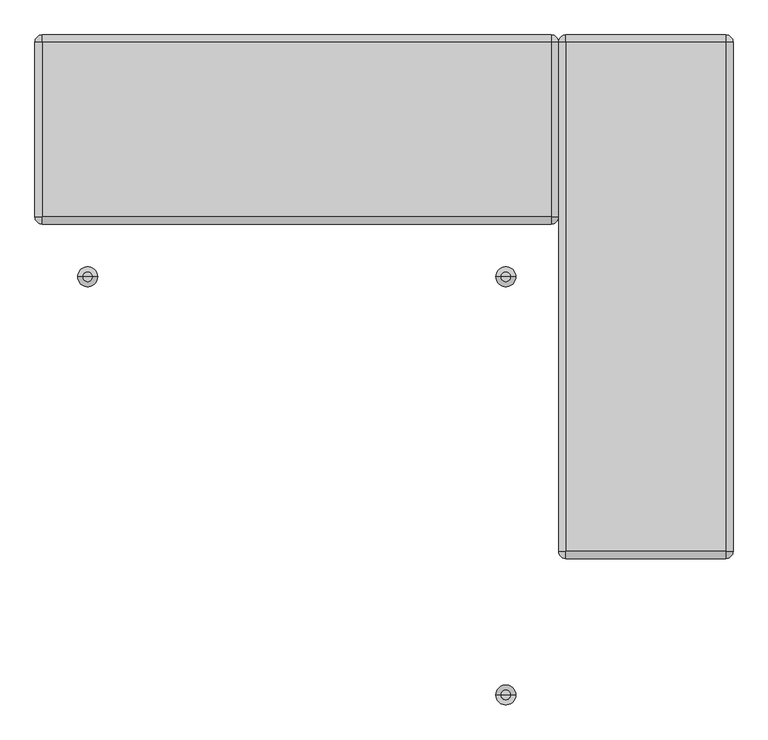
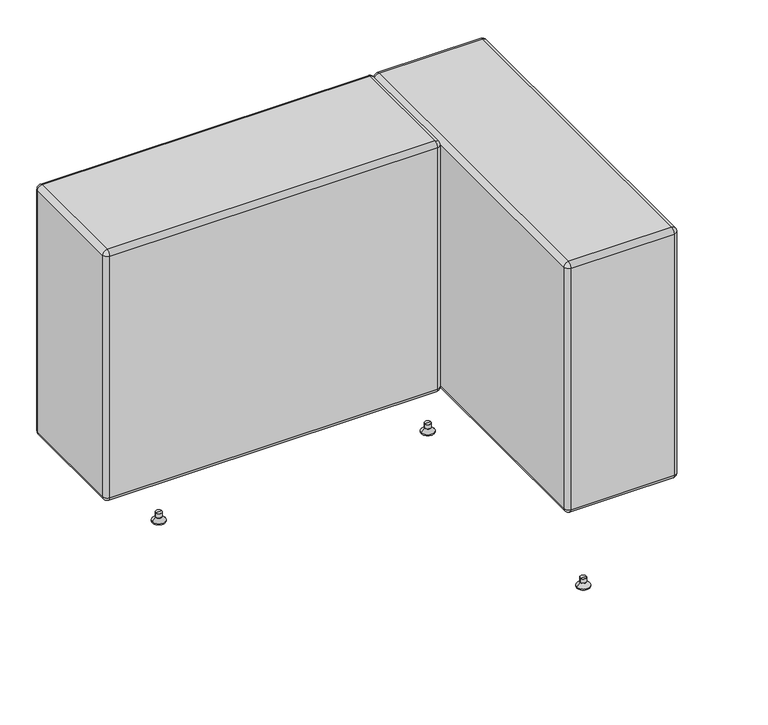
"""IFC4 building model written with IfcOpenShell, lengths in millimetres: furniture geometry, KFI Studios - Conversa : 36”x36” Seat - Left Corner."""

from ifc_helpers import new_model, si_unit, point, frame, origin, place, context, project, spatial, polyline, circle_curve, ellipse_curve, trimmed, source, transform, mapped, element, save
from ifc_brep_helpers import plane_surface, cylinder_surface, revolved_surface, advanced_brep


def furniture_95acf05c(model_context):
    return source(origin(), model_context, "Body", "AdvancedBrep", [
        advanced_brep(
        [(678.1895895, 695.325, 25.4), (669.925, 695.325, 25.4), (661.6604105, 695.325, 25.4), (678.1895895, 695.325, 14.2843611), (661.6604105, 695.325, 14.2843611), (676.5876354, 695.325, 14.2843611), (663.2623646, 695.325, 14.2843611), (676.5876354, 695.325, 12.7064551), (663.2623646, 695.325, 12.7064551), (678.1890671, 695.325, 12.7064551), (661.6609329, 695.325, 12.7064551), (687.3741215, 695.325, 3.1950529), (652.4758785, 695.325, 3.1950529), (687.3741215, 695.325, 0.0), (652.4758785, 695.325, 0.0), (669.925, 695.325, 0.0)],
        [
            (0, 1),
            (1, 2),
            (2, 0, circle_curve(frame((669.925, 695.325, 25.4), z_axis=(0.0, 0.0, 1.0), x_axis=(-1.0, 0.0, 0.0)), 8.2645895)),
            (0, 2, circle_curve(frame((669.925, 695.325, 25.4), z_axis=(0.0, 0.0, 1.0), x_axis=(-1.0, 0.0, 0.0)), 8.2645895)),
            (3, 0),
            (2, 4),
            (4, 3, circle_curve(frame((669.925, 695.325, 14.2843611), z_axis=(0.0, 0.0, 1.0), x_axis=(-1.0, 0.0, 0.0)), 8.2645895)),
            (3, 4, circle_curve(frame((669.925, 695.325, 14.2843611), z_axis=(0.0, 0.0, 1.0), x_axis=(-1.0, 0.0, 0.0)), 8.2645895)),
            (5, 3),
            (4, 6),
            (6, 5, circle_curve(frame((669.925, 695.325, 14.2843611), z_axis=(0.0, 0.0, 1.0), x_axis=(-1.0, 0.0, 0.0)), 6.6626354)),
            (5, 6, circle_curve(frame((669.925, 695.325, 14.2843611), z_axis=(0.0, 0.0, 1.0), x_axis=(-1.0, 0.0, 0.0)), 6.6626354)),
            (7, 5),
            (6, 8),
            (8, 7, circle_curve(frame((669.925, 695.325, 12.7064551), z_axis=(0.0, 0.0, 1.0), x_axis=(-1.0, 0.0, 0.0)), 6.6626354)),
            (7, 8, circle_curve(frame((669.925, 695.325, 12.7064551), z_axis=(0.0, 0.0, 1.0), x_axis=(-1.0, 0.0, 0.0)), 6.6626354)),
            (9, 7),
            (8, 10),
            (10, 9, circle_curve(frame((669.925, 695.325, 12.7064551), z_axis=(0.0, 0.0, 1.0), x_axis=(-1.0, 0.0, 0.0)), 8.2640671)),
            (9, 10, circle_curve(frame((669.925, 695.325, 12.7064551), z_axis=(0.0, 0.0, 1.0), x_axis=(-1.0, 0.0, 0.0)), 8.2640671)),
            (11, 9),
            (10, 12),
            (12, 11, circle_curve(frame((669.925, 695.325, 3.1950529), z_axis=(0.0, 0.0, 1.0), x_axis=(-1.0, 0.0, 0.0)), 17.4491215)),
            (11, 12, circle_curve(frame((669.925, 695.325, 3.1950529), z_axis=(0.0, 0.0, 1.0), x_axis=(-1.0, 0.0, 0.0)), 17.4491215)),
            (13, 11),
            (12, 14),
            (14, 13, circle_curve(frame((669.925, 695.325, 0.0), z_axis=(0.0, 0.0, 1.0), x_axis=(-1.0, 0.0, 0.0)), 17.4491215)),
            (13, 14, circle_curve(frame((669.925, 695.325, 0.0), z_axis=(0.0, 0.0, 1.0), x_axis=(-1.0, 0.0, 0.0)), 17.4491215)),
            (15, 13),
            (14, 15),
        ],
        [
            plane_surface(frame((669.925, 695.325, 25.4), z_axis=(0.0, 0.0, 1.0), x_axis=(-1.0, 0.0, 0.0))),
            cylinder_surface(frame((669.925, 695.325, 33.820929), z_axis=(0.0, 0.0, -1.0), x_axis=(-1.0, 0.0, 0.0)), 8.2645895),
            plane_surface(frame((669.925, 695.325, 14.2843611), z_axis=(0.0, 0.0, -1.0), x_axis=(-1.0, 0.0, 0.0))),
            cylinder_surface(frame((669.925, 695.325, 33.820929), z_axis=(0.0, 0.0, -1.0), x_axis=(-1.0, 0.0, 0.0)), 6.6626354),
            plane_surface(frame((669.925, 695.325, 12.7064551), z_axis=(0.0, 0.0, 1.0), x_axis=(-1.0, 0.0, 0.0))),
            revolved_surface(polyline([(661.6609329, 695.325, 12.7064551), (652.4758785, 695.325, 3.1950529)]), (669.925, 695.325, 33.820929), (0.0, 0.0, -1.0)),
            cylinder_surface(frame((669.925, 695.325, 33.820929), z_axis=(0.0, 0.0, -1.0), x_axis=(-1.0, 0.0, 0.0)), 17.4491215),
            plane_surface(frame((669.925, 695.325, 0.0), z_axis=(0.0, 0.0, -1.0), x_axis=(-1.0, 0.0, 0.0))),
        ],
        [
            (0, [[1, 2, 3]]),
            (0, [[-2, -1, 4]]),
            (1, [[5, -3, 6, 7]]),
            (1, [[-6, -4, -5, 8]]),
            (2, [[9, -7, 10, 11]]),
            (2, [[-10, -8, -9, 12]]),
            (3, [[13, -11, 14, 15]]),
            (3, [[-14, -12, -13, 16]]),
            (4, [[17, -15, 18, 19]]),
            (4, [[-18, -16, -17, 20]]),
            (5, [[21, -19, 22, 23]]),
            (5, [[-22, -20, -21, 24]]),
            (6, [[25, -23, 26, 27]]),
            (6, [[-26, -24, -25, 28]]),
            (7, [[29, -27, 30]]),
            (7, [[-30, -28, -29]]),
        ],
    ),
        advanced_brep(
        [(678.1895895, -34.925, 25.4), (661.6604105, -34.925, 25.4), (669.925, -34.925, 25.4), (678.1895895, -34.925, 14.2843611), (661.6604105, -34.925, 14.2843611), (676.5876354, -34.925, 14.2843611), (663.2623646, -34.925, 14.2843611), (676.5876354, -34.925, 12.7064551), (663.2623646, -34.925, 12.7064551), (678.1890671, -34.925, 12.7064551), (661.6609329, -34.925, 12.7064551), (687.3741215, -34.925, 3.1950529), (652.4758785, -34.925, 3.1950529), (687.3741215, -34.925, 0.0), (652.4758785, -34.925, 0.0), (669.925, -34.925, 0.0)],
        [
            (0, 1, circle_curve(frame((669.925, -34.925, 25.4), z_axis=(0.0, 0.0, 1.0), x_axis=(-1.0, 0.0, 0.0)), 8.2645895)),
            (1, 2),
            (2, 0),
            (1, 0, circle_curve(frame((669.925, -34.925, 25.4), z_axis=(0.0, 0.0, 1.0), x_axis=(-1.0, 0.0, 0.0)), 8.2645895)),
            (3, 4, circle_curve(frame((669.925, -34.925, 14.2843611), z_axis=(0.0, 0.0, 1.0), x_axis=(-1.0, 0.0, 0.0)), 8.2645895)),
            (4, 1),
            (0, 3),
            (4, 3, circle_curve(frame((669.925, -34.925, 14.2843611), z_axis=(0.0, 0.0, 1.0), x_axis=(-1.0, 0.0, 0.0)), 8.2645895)),
            (5, 6, circle_curve(frame((669.925, -34.925, 14.2843611), z_axis=(0.0, 0.0, 1.0), x_axis=(-1.0, 0.0, 0.0)), 6.6626354)),
            (6, 4),
            (3, 5),
            (6, 5, circle_curve(frame((669.925, -34.925, 14.2843611), z_axis=(0.0, 0.0, 1.0), x_axis=(-1.0, 0.0, 0.0)), 6.6626354)),
            (7, 8, circle_curve(frame((669.925, -34.925, 12.7064551), z_axis=(0.0, 0.0, 1.0), x_axis=(-1.0, 0.0, 0.0)), 6.6626354)),
            (8, 6),
            (5, 7),
            (8, 7, circle_curve(frame((669.925, -34.925, 12.7064551), z_axis=(0.0, 0.0, 1.0), x_axis=(-1.0, 0.0, 0.0)), 6.6626354)),
            (9, 10, circle_curve(frame((669.925, -34.925, 12.7064551), z_axis=(0.0, 0.0, 1.0), x_axis=(-1.0, 0.0, 0.0)), 8.2640671)),
            (10, 8),
            (7, 9),
            (10, 9, circle_curve(frame((669.925, -34.925, 12.7064551), z_axis=(0.0, 0.0, 1.0), x_axis=(-1.0, 0.0, 0.0)), 8.2640671)),
            (11, 12, circle_curve(frame((669.925, -34.925, 3.1950529), z_axis=(0.0, 0.0, 1.0), x_axis=(-1.0, 0.0, 0.0)), 17.4491215)),
            (12, 10),
            (9, 11),
            (12, 11, circle_curve(frame((669.925, -34.925, 3.1950529), z_axis=(0.0, 0.0, 1.0), x_axis=(-1.0, 0.0, 0.0)), 17.4491215)),
            (13, 14, circle_curve(frame((669.925, -34.925, 0.0), z_axis=(0.0, 0.0, 1.0), x_axis=(-1.0, 0.0, 0.0)), 17.4491215)),
            (14, 12),
            (11, 13),
            (14, 13, circle_curve(frame((669.925, -34.925, 0.0), z_axis=(0.0, 0.0, 1.0), x_axis=(-1.0, 0.0, 0.0)), 17.4491215)),
            (15, 14),
            (13, 15),
        ],
        [
            plane_surface(frame((669.925, -34.925, 25.4), z_axis=(0.0, 0.0, 1.0), x_axis=(-1.0, 0.0, 0.0))),
            cylinder_surface(frame((669.925, -34.925, 33.820929), z_axis=(0.0, 0.0, -1.0), x_axis=(-1.0, 0.0, 0.0)), 8.2645895),
            plane_surface(frame((669.925, -34.925, 14.2843611), z_axis=(0.0, 0.0, -1.0), x_axis=(-1.0, 0.0, 0.0))),
            cylinder_surface(frame((669.925, -34.925, 33.820929), z_axis=(0.0, 0.0, -1.0), x_axis=(-1.0, 0.0, 0.0)), 6.6626354),
            plane_surface(frame((669.925, -34.925, 12.7064551), z_axis=(0.0, 0.0, 1.0), x_axis=(-1.0, 0.0, 0.0))),
            revolved_surface(polyline([(661.6609329, -34.925, 12.7064551), (652.4758785, -34.925, 3.1950529)]), (669.925, -34.925, 33.820929), (0.0, 0.0, -1.0)),
            cylinder_surface(frame((669.925, -34.925, 33.820929), z_axis=(0.0, 0.0, -1.0), x_axis=(-1.0, 0.0, 0.0)), 17.4491215),
            plane_surface(frame((669.925, -34.925, 0.0), z_axis=(0.0, 0.0, -1.0), x_axis=(-1.0, 0.0, 0.0))),
        ],
        [
            (0, [[1, 2, 3]]),
            (0, [[4, -3, -2]]),
            (1, [[5, 6, -1, 7]]),
            (1, [[8, -7, -4, -6]]),
            (2, [[9, 10, -5, 11]]),
            (2, [[12, -11, -8, -10]]),
            (3, [[13, 14, -9, 15]]),
            (3, [[16, -15, -12, -14]]),
            (4, [[17, 18, -13, 19]]),
            (4, [[20, -19, -16, -18]]),
            (5, [[21, 22, -17, 23]]),
            (5, [[24, -23, -20, -22]]),
            (6, [[25, 26, -21, 27]]),
            (6, [[28, -27, -24, -26]]),
            (7, [[29, -25, 30]]),
            (7, [[-30, -28, -29]]),
        ],
    ),
        advanced_brep(
        [(457.2, 774.7, 730.25), (457.2, -114.3, 730.25), (469.9, -114.3, 742.95), (469.9, 774.7, 742.95), (457.2, 774.7, 38.1), (457.2, -114.3, 38.1), (469.9, 774.7, 25.4), (469.9, -114.3, 25.4), (469.9, -127.0, 730.25), (749.3, -127.0, 730.25), (749.3, -114.3, 742.95), (469.9, -127.0, 38.1), (749.3, -127.0, 38.1), (749.3, -114.3, 25.4), (749.3, 774.7, 742.95), (749.3, 774.7, 25.4), (749.3, 787.4, 730.25), (469.9, 787.4, 730.25), (749.3, 787.4, 38.1), (469.9, 787.4, 38.1), (762.0, -114.3, 730.25), (762.0, 774.7, 730.25), (762.0, -114.3, 38.1), (762.0, 774.7, 38.1)],
        [
            (0, 1),
            (1, 2, circle_curve(frame((469.9, -114.3, 730.25), z_axis=(0.0, 1.0, 0.0), x_axis=(-1.0, 0.0, 0.0)), 12.7)),
            (2, 3),
            (3, 0, circle_curve(frame((469.9, 774.7, 730.25), z_axis=(0.0, -1.0, 0.0), x_axis=(-1.0, 0.0, 0.0)), 12.7)),
            (0, 4),
            (4, 5),
            (5, 1),
            (4, 6, circle_curve(frame((469.9, 774.7, 38.1), z_axis=(0.0, -1.0, 0.0), x_axis=(-1.0, 0.0, 0.0)), 12.7)),
            (6, 7),
            (7, 5, circle_curve(frame((469.9, -114.3, 38.1), z_axis=(0.0, 1.0, 0.0), x_axis=(-1.0, 0.0, 0.0)), 12.7)),
            (8, 9),
            (9, 10, circle_curve(frame((749.3, -114.3, 730.25), z_axis=(-1.0, 0.0, 0.0), x_axis=(0.0, 1.0, 0.0)), 12.7)),
            (10, 2),
            (2, 8, circle_curve(frame((469.9, -114.3, 730.25), z_axis=(1.0, 0.0, 0.0), x_axis=(0.0, 1.0, 0.0)), 12.7)),
            (8, 11),
            (11, 12),
            (12, 9),
            (11, 7, circle_curve(frame((469.9, -114.3, 38.1), z_axis=(1.0, 0.0, 0.0), x_axis=(0.0, 1.0, 0.0)), 12.7)),
            (7, 13),
            (13, 12, circle_curve(frame((749.3, -114.3, 38.1), z_axis=(-1.0, 0.0, 0.0), x_axis=(0.0, 1.0, 0.0)), 12.7)),
            (10, 14),
            (14, 3),
            (6, 15),
            (15, 13),
            (16, 17),
            (17, 3, circle_curve(frame((469.9, 774.7, 730.25), z_axis=(1.0, 0.0, 0.0), x_axis=(0.0, 1.0, 0.0)), 12.7)),
            (14, 16, circle_curve(frame((749.3, 774.7, 730.25), z_axis=(-1.0, 0.0, 0.0), x_axis=(0.0, 1.0, 0.0)), 12.7)),
            (16, 18),
            (18, 19),
            (19, 17),
            (18, 15, circle_curve(frame((749.3, 774.7, 38.1), z_axis=(-1.0, 0.0, 0.0), x_axis=(0.0, 1.0, 0.0)), 12.7)),
            (6, 19, circle_curve(frame((469.9, 774.7, 38.1), z_axis=(1.0, 0.0, 0.0), x_axis=(0.0, 1.0, 0.0)), 12.7)),
            (20, 21),
            (21, 14, circle_curve(frame((749.3, 774.7, 730.25), z_axis=(0.0, -1.0, 0.0), x_axis=(-1.0, 0.0, 0.0)), 12.7)),
            (10, 20, circle_curve(frame((749.3, -114.3, 730.25), z_axis=(0.0, 1.0, 0.0), x_axis=(-1.0, 0.0, 0.0)), 12.7)),
            (20, 22),
            (22, 23),
            (23, 21),
            (22, 13, circle_curve(frame((749.3, -114.3, 38.1), z_axis=(0.0, 1.0, 0.0), x_axis=(-1.0, 0.0, 0.0)), 12.7)),
            (15, 23, circle_curve(frame((749.3, 774.7, 38.1), z_axis=(0.0, -1.0, 0.0), x_axis=(-1.0, 0.0, 0.0)), 12.7)),
            (19, 4, circle_curve(frame((469.9, 774.7, 38.1), z_axis=(0.0, 0.0, 1.0), x_axis=(-1.0, 0.0, 0.0)), 12.7)),
            (0, 17, circle_curve(frame((469.9, 774.7, 730.25), z_axis=(0.0, 0.0, -1.0), x_axis=(-1.0, 0.0, 0.0)), 12.7)),
            (8, 1, circle_curve(frame((469.9, -114.3, 730.25), z_axis=(0.0, 0.0, -1.0), x_axis=(-1.0, 0.0, 0.0)), 12.7)),
            (5, 11, circle_curve(frame((469.9, -114.3, 38.1), z_axis=(0.0, 0.0, 1.0), x_axis=(-1.0, 0.0, 0.0)), 12.7)),
            (12, 22, circle_curve(frame((749.3, -114.3, 38.1), z_axis=(0.0, 0.0, 1.0), x_axis=(1.0, 0.0, 0.0)), 12.7)),
            (20, 9, circle_curve(frame((749.3, -114.3, 730.25), z_axis=(0.0, 0.0, -1.0), x_axis=(1.0, 0.0, 0.0)), 12.7)),
            (16, 21, circle_curve(frame((749.3, 774.7, 730.25), z_axis=(0.0, 0.0, -1.0), x_axis=(1.0, 0.0, 0.0)), 12.7)),
            (23, 18, circle_curve(frame((749.3, 774.7, 38.1), z_axis=(0.0, 0.0, 1.0), x_axis=(1.0, 0.0, 0.0)), 12.7)),
        ],
        [
            cylinder_surface(frame((469.9, -114.3, 730.25), z_axis=(0.0, -1.0, 0.0), x_axis=(-1.0, 0.0, 0.0)), 12.7),
            plane_surface(frame((457.2, -114.3, 730.25), z_axis=(-1.0, 0.0, 0.0), x_axis=(0.0, 1.0, 0.0))),
            cylinder_surface(frame((469.9, -114.3, 38.1), z_axis=(0.0, -1.0, 0.0), x_axis=(-1.0, 0.0, 0.0)), 12.7),
            cylinder_surface(frame((469.9, -114.3, 730.25), z_axis=(-1.0, 0.0, 0.0), x_axis=(0.0, 1.0, 0.0)), 12.7),
            plane_surface(frame((469.9, -127.0, 38.1), z_axis=(0.0, -1.0, 0.0), x_axis=(1.0, 0.0, 0.0))),
            cylinder_surface(frame((469.9, -114.3, 38.1), z_axis=(-1.0, 0.0, 0.0), x_axis=(0.0, 1.0, 0.0)), 12.7),
            plane_surface(frame((469.9, 774.7, 742.95), z_axis=(0.0, 0.0, 1.0), x_axis=(-1.0, 0.0, 0.0))),
            plane_surface(frame((469.9, 774.7, 25.4), z_axis=(0.0, 0.0, -1.0), x_axis=(1.0, 0.0, 0.0))),
            cylinder_surface(frame((469.9, 774.7, 730.25), z_axis=(-1.0, 0.0, 0.0), x_axis=(0.0, 1.0, 0.0)), 12.7),
            plane_surface(frame((469.9, 787.4, 730.25), z_axis=(0.0, 1.0, 0.0), x_axis=(1.0, 0.0, 0.0))),
            cylinder_surface(frame((469.9, 774.7, 38.1), z_axis=(-1.0, 0.0, 0.0), x_axis=(0.0, 1.0, 0.0)), 12.7),
            cylinder_surface(frame((749.3, -114.3, 730.25), z_axis=(0.0, -1.0, 0.0), x_axis=(-1.0, 0.0, 0.0)), 12.7),
            plane_surface(frame((762.0, -114.3, 38.1), z_axis=(1.0, 0.0, 0.0), x_axis=(0.0, 1.0, 0.0))),
            cylinder_surface(frame((749.3, -114.3, 38.1), z_axis=(0.0, -1.0, 0.0), x_axis=(-1.0, 0.0, 0.0)), 12.7),
            cylinder_surface(frame((469.9, 774.7, 742.95), z_axis=(0.0, 0.0, 1.0), x_axis=(-1.0, 0.0, 0.0)), 12.7),
            revolved_surface(trimmed(ellipse_curve(frame((469.9, 774.7, 38.1), z_axis=(0.0, 1.0, 0.0), x_axis=(0.0, 0.0, 1.0)), 12.7, 12.7), [point((469.9, 774.7, 25.4))], [point((457.2, 774.7, 38.1))], True, "CARTESIAN"), (469.9, 774.7, 742.95), (0.0, 0.0, 1.0)),
            revolved_surface(trimmed(ellipse_curve(frame((469.9, 774.7, 730.25), z_axis=(0.0, 1.0, 0.0), x_axis=(0.0, 0.0, 1.0)), 12.7, 12.7), [point((457.2, 774.7, 730.25))], [point((469.9, 774.7, 742.95))], True, "CARTESIAN"), (469.9, 774.7, 742.95), (0.0, 0.0, 1.0)),
            cylinder_surface(frame((469.9, -114.3, 592.6689642), z_axis=(0.0, 0.0, -1.0), x_axis=(-1.0, 0.0, 0.0)), 12.7),
            revolved_surface(trimmed(ellipse_curve(frame((469.9, -114.3, 730.25), z_axis=(0.0, -1.0, 0.0), x_axis=(1.0, 0.0, 0.0)), 12.7, 12.7), [point((469.9, -114.3, 742.95))], [point((457.2, -114.3, 730.25))], True, "CARTESIAN"), (469.9, -114.3, 592.6689642), (0.0, 0.0, -1.0)),
            revolved_surface(trimmed(ellipse_curve(frame((469.9, -114.3, 38.1), z_axis=(0.0, -1.0, 0.0), x_axis=(1.0, 0.0, 0.0)), 12.7, 12.7), [point((457.2, -114.3, 38.1))], [point((469.9, -114.3, 25.4))], True, "CARTESIAN"), (469.9, -114.3, 592.6689642), (0.0, 0.0, -1.0)),
            cylinder_surface(frame((749.3, -114.3, 742.95), z_axis=(0.0, 0.0, 1.0), x_axis=(1.0, 0.0, 0.0)), 12.7),
            revolved_surface(trimmed(ellipse_curve(frame((749.3, -114.3, 38.1), z_axis=(0.0, -1.0, 0.0), x_axis=(1.0, 0.0, 0.0)), 12.7, 12.7), [point((749.3, -114.3, 25.4))], [point((762.0, -114.3, 38.1))], True, "CARTESIAN"), (749.3, -114.3, 742.95), (0.0, 0.0, 1.0)),
            revolved_surface(trimmed(ellipse_curve(frame((749.3, -114.3, 730.25), z_axis=(0.0, -1.0, 0.0), x_axis=(1.0, 0.0, 0.0)), 12.7, 12.7), [point((762.0, -114.3, 730.25))], [point((749.3, -114.3, 742.95))], True, "CARTESIAN"), (749.3, -114.3, 742.95), (0.0, 0.0, 1.0)),
            cylinder_surface(frame((749.3, 774.7, 592.6689642), z_axis=(0.0, 0.0, -1.0), x_axis=(1.0, 0.0, 0.0)), 12.7),
            revolved_surface(trimmed(ellipse_curve(frame((749.3, 774.7, 730.25), z_axis=(0.0, 1.0, 0.0), x_axis=(0.0, 0.0, 1.0)), 12.7, 12.7), [point((749.3, 774.7, 742.95))], [point((762.0, 774.7, 730.25))], True, "CARTESIAN"), (749.3, 774.7, 592.6689642), (0.0, 0.0, -1.0)),
            revolved_surface(trimmed(ellipse_curve(frame((749.3, 774.7, 38.1), z_axis=(0.0, 1.0, 0.0), x_axis=(0.0, 0.0, 1.0)), 12.7, 12.7), [point((762.0, 774.7, 38.1))], [point((749.3, 774.7, 25.4))], True, "CARTESIAN"), (749.3, 774.7, 592.6689642), (0.0, 0.0, -1.0)),
        ],
        [
            (0, [[1, 2, 3, 4]]),
            (1, [[-1, 5, 6, 7]]),
            (2, [[-6, 8, 9, 10]]),
            (3, [[11, 12, 13, 14]]),
            (4, [[-11, 15, 16, 17]]),
            (5, [[-16, 18, 19, 20]]),
            (6, [[-3, -13, 21, 22]]),
            (7, [[-9, 23, 24, -19]]),
            (8, [[25, 26, -22, 27]]),
            (9, [[-25, 28, 29, 30]]),
            (10, [[-29, 31, -23, 32]]),
            (11, [[33, 34, -21, 35]]),
            (12, [[-33, 36, 37, 38]]),
            (13, [[-37, 39, -24, 40]]),
            (14, [[41, -5, 42, -30]]),
            (15, [[-41, -32, -8]]),
            (16, [[-42, -4, -26]]),
            (17, [[43, -7, 44, -15]]),
            (18, [[-43, -14, -2]]),
            (19, [[-44, -10, -18]]),
            (20, [[45, -36, 46, -17]]),
            (21, [[-45, -20, -39]]),
            (22, [[-46, -35, -12]]),
            (23, [[47, -38, 48, -28]]),
            (24, [[-47, -27, -34]]),
            (25, [[-48, -40, -31]]),
        ],
    ),
        advanced_brep(
        [(373.3895895, 695.325, 25.4), (365.125, 695.325, 25.4), (356.8604105, 695.325, 25.4), (373.3895895, 695.325, 14.2843611), (356.8604105, 695.325, 14.2843611), (371.7876354, 695.325, 14.2843611), (358.4623646, 695.325, 14.2843611), (371.7876354, 695.325, 12.7064551), (358.4623646, 695.325, 12.7064551), (373.3890671, 695.325, 12.7064551), (356.8609329, 695.325, 12.7064551), (382.5741215, 695.325, 3.1950529), (347.6758785, 695.325, 3.1950529), (382.5741215, 695.325, 0.0), (347.6758785, 695.325, 0.0), (365.125, 695.325, 0.0)],
        [
            (0, 1),
            (1, 2),
            (2, 0, circle_curve(frame((365.125, 695.325, 25.4), z_axis=(0.0, 0.0, 1.0), x_axis=(-1.0, 0.0, 0.0)), 8.2645895)),
            (0, 2, circle_curve(frame((365.125, 695.325, 25.4), z_axis=(0.0, 0.0, 1.0), x_axis=(-1.0, 0.0, 0.0)), 8.2645895)),
            (3, 0),
            (2, 4),
            (4, 3, circle_curve(frame((365.125, 695.325, 14.2843611), z_axis=(0.0, 0.0, 1.0), x_axis=(-1.0, 0.0, 0.0)), 8.2645895)),
            (3, 4, circle_curve(frame((365.125, 695.325, 14.2843611), z_axis=(0.0, 0.0, 1.0), x_axis=(-1.0, 0.0, 0.0)), 8.2645895)),
            (5, 3),
            (4, 6),
            (6, 5, circle_curve(frame((365.125, 695.325, 14.2843611), z_axis=(0.0, 0.0, 1.0), x_axis=(-1.0, 0.0, 0.0)), 6.6626354)),
            (5, 6, circle_curve(frame((365.125, 695.325, 14.2843611), z_axis=(0.0, 0.0, 1.0), x_axis=(-1.0, 0.0, 0.0)), 6.6626354)),
            (7, 5),
            (6, 8),
            (8, 7, circle_curve(frame((365.125, 695.325, 12.7064551), z_axis=(0.0, 0.0, 1.0), x_axis=(-1.0, 0.0, 0.0)), 6.6626354)),
            (7, 8, circle_curve(frame((365.125, 695.325, 12.7064551), z_axis=(0.0, 0.0, 1.0), x_axis=(-1.0, 0.0, 0.0)), 6.6626354)),
            (9, 7),
            (8, 10),
            (10, 9, circle_curve(frame((365.125, 695.325, 12.7064551), z_axis=(0.0, 0.0, 1.0), x_axis=(-1.0, 0.0, 0.0)), 8.2640671)),
            (9, 10, circle_curve(frame((365.125, 695.325, 12.7064551), z_axis=(0.0, 0.0, 1.0), x_axis=(-1.0, 0.0, 0.0)), 8.2640671)),
            (11, 9),
            (10, 12),
            (12, 11, circle_curve(frame((365.125, 695.325, 3.1950529), z_axis=(0.0, 0.0, 1.0), x_axis=(-1.0, 0.0, 0.0)), 17.4491215)),
            (11, 12, circle_curve(frame((365.125, 695.325, 3.1950529), z_axis=(0.0, 0.0, 1.0), x_axis=(-1.0, 0.0, 0.0)), 17.4491215)),
            (13, 11),
            (12, 14),
            (14, 13, circle_curve(frame((365.125, 695.325, 0.0), z_axis=(0.0, 0.0, 1.0), x_axis=(-1.0, 0.0, 0.0)), 17.4491215)),
            (13, 14, circle_curve(frame((365.125, 695.325, 0.0), z_axis=(0.0, 0.0, 1.0), x_axis=(-1.0, 0.0, 0.0)), 17.4491215)),
            (15, 13),
            (14, 15),
        ],
        [
            plane_surface(frame((365.125, 695.325, 25.4), z_axis=(0.0, 0.0, 1.0), x_axis=(-1.0, 0.0, 0.0))),
            cylinder_surface(frame((365.125, 695.325, 33.820929), z_axis=(0.0, 0.0, -1.0), x_axis=(-1.0, 0.0, 0.0)), 8.2645895),
            plane_surface(frame((365.125, 695.325, 14.2843611), z_axis=(0.0, 0.0, -1.0), x_axis=(-1.0, 0.0, 0.0))),
            cylinder_surface(frame((365.125, 695.325, 33.820929), z_axis=(0.0, 0.0, -1.0), x_axis=(-1.0, 0.0, 0.0)), 6.6626354),
            plane_surface(frame((365.125, 695.325, 12.7064551), z_axis=(0.0, 0.0, 1.0), x_axis=(-1.0, 0.0, 0.0))),
            revolved_surface(polyline([(356.8609329, 695.325, 12.7064551), (347.6758785, 695.325, 3.1950529)]), (365.125, 695.325, 33.820929), (0.0, 0.0, -1.0)),
            cylinder_surface(frame((365.125, 695.325, 33.820929), z_axis=(0.0, 0.0, -1.0), x_axis=(-1.0, 0.0, 0.0)), 17.4491215),
            plane_surface(frame((365.125, 695.325, 0.0), z_axis=(0.0, 0.0, -1.0), x_axis=(-1.0, 0.0, 0.0))),
        ],
        [
            (0, [[1, 2, 3]]),
            (0, [[-2, -1, 4]]),
            (1, [[5, -3, 6, 7]]),
            (1, [[-6, -4, -5, 8]]),
            (2, [[9, -7, 10, 11]]),
            (2, [[-10, -8, -9, 12]]),
            (3, [[13, -11, 14, 15]]),
            (3, [[-14, -12, -13, 16]]),
            (4, [[17, -15, 18, 19]]),
            (4, [[-18, -16, -17, 20]]),
            (5, [[21, -19, 22, 23]]),
            (5, [[-22, -20, -21, 24]]),
            (6, [[25, -23, 26, 27]]),
            (6, [[-26, -24, -25, 28]]),
            (7, [[29, -27, 30]]),
            (7, [[-30, -28, -29]]),
        ],
    ),
        advanced_brep(
        [(-356.8604105, 695.325, 25.4), (-365.125, 695.325, 25.4), (-373.3895895, 695.325, 25.4), (-356.8604105, 695.325, 14.2843611), (-373.3895895, 695.325, 14.2843611), (-358.4623646, 695.325, 14.2843611), (-371.7876354, 695.325, 14.2843611), (-358.4623646, 695.325, 12.7064551), (-371.7876354, 695.325, 12.7064551), (-356.8609329, 695.325, 12.7064551), (-373.3890671, 695.325, 12.7064551), (-347.6758785, 695.325, 3.1950529), (-382.5741215, 695.325, 3.1950529), (-347.6758785, 695.325, 0.0), (-382.5741215, 695.325, 0.0), (-365.125, 695.325, 0.0)],
        [
            (0, 1),
            (1, 2),
            (2, 0, circle_curve(frame((-365.125, 695.325, 25.4), z_axis=(0.0, 0.0, 1.0), x_axis=(-1.0, 0.0, 0.0)), 8.2645895)),
            (0, 2, circle_curve(frame((-365.125, 695.325, 25.4), z_axis=(0.0, 0.0, 1.0), x_axis=(-1.0, 0.0, 0.0)), 8.2645895)),
            (3, 0),
            (2, 4),
            (4, 3, circle_curve(frame((-365.125, 695.325, 14.2843611), z_axis=(0.0, 0.0, 1.0), x_axis=(-1.0, 0.0, 0.0)), 8.2645895)),
            (3, 4, circle_curve(frame((-365.125, 695.325, 14.2843611), z_axis=(0.0, 0.0, 1.0), x_axis=(-1.0, 0.0, 0.0)), 8.2645895)),
            (5, 3),
            (4, 6),
            (6, 5, circle_curve(frame((-365.125, 695.325, 14.2843611), z_axis=(0.0, 0.0, 1.0), x_axis=(-1.0, 0.0, 0.0)), 6.6626354)),
            (5, 6, circle_curve(frame((-365.125, 695.325, 14.2843611), z_axis=(0.0, 0.0, 1.0), x_axis=(-1.0, 0.0, 0.0)), 6.6626354)),
            (7, 5),
            (6, 8),
            (8, 7, circle_curve(frame((-365.125, 695.325, 12.7064551), z_axis=(0.0, 0.0, 1.0), x_axis=(-1.0, 0.0, 0.0)), 6.6626354)),
            (7, 8, circle_curve(frame((-365.125, 695.325, 12.7064551), z_axis=(0.0, 0.0, 1.0), x_axis=(-1.0, 0.0, 0.0)), 6.6626354)),
            (9, 7),
            (8, 10),
            (10, 9, circle_curve(frame((-365.125, 695.325, 12.7064551), z_axis=(0.0, 0.0, 1.0), x_axis=(-1.0, 0.0, 0.0)), 8.2640671)),
            (9, 10, circle_curve(frame((-365.125, 695.325, 12.7064551), z_axis=(0.0, 0.0, 1.0), x_axis=(-1.0, 0.0, 0.0)), 8.2640671)),
            (11, 9),
            (10, 12),
            (12, 11, circle_curve(frame((-365.125, 695.325, 3.1950529), z_axis=(0.0, 0.0, 1.0), x_axis=(-1.0, 0.0, 0.0)), 17.4491215)),
            (11, 12, circle_curve(frame((-365.125, 695.325, 3.1950529), z_axis=(0.0, 0.0, 1.0), x_axis=(-1.0, 0.0, 0.0)), 17.4491215)),
            (13, 11),
            (12, 14),
            (14, 13, circle_curve(frame((-365.125, 695.325, 0.0), z_axis=(0.0, 0.0, 1.0), x_axis=(-1.0, 0.0, 0.0)), 17.4491215)),
            (13, 14, circle_curve(frame((-365.125, 695.325, 0.0), z_axis=(0.0, 0.0, 1.0), x_axis=(-1.0, 0.0, 0.0)), 17.4491215)),
            (15, 13),
            (14, 15),
        ],
        [
            plane_surface(frame((-365.125, 695.325, 25.4), z_axis=(0.0, 0.0, 1.0), x_axis=(-1.0, 0.0, 0.0))),
            cylinder_surface(frame((-365.125, 695.325, 33.820929), z_axis=(0.0, 0.0, -1.0), x_axis=(-1.0, 0.0, 0.0)), 8.2645895),
            plane_surface(frame((-365.125, 695.325, 14.2843611), z_axis=(0.0, 0.0, -1.0), x_axis=(-1.0, 0.0, 0.0))),
            cylinder_surface(frame((-365.125, 695.325, 33.820929), z_axis=(0.0, 0.0, -1.0), x_axis=(-1.0, 0.0, 0.0)), 6.6626354),
            plane_surface(frame((-365.125, 695.325, 12.7064551), z_axis=(0.0, 0.0, 1.0), x_axis=(-1.0, 0.0, 0.0))),
            revolved_surface(polyline([(-373.3890671, 695.325, 12.7064551), (-382.5741215, 695.325, 3.1950529)]), (-365.125, 695.325, 33.820929), (0.0, 0.0, -1.0)),
            cylinder_surface(frame((-365.125, 695.325, 33.820929), z_axis=(0.0, 0.0, -1.0), x_axis=(-1.0, 0.0, 0.0)), 17.4491215),
            plane_surface(frame((-365.125, 695.325, 0.0), z_axis=(0.0, 0.0, -1.0), x_axis=(-1.0, 0.0, 0.0))),
        ],
        [
            (0, [[1, 2, 3]]),
            (0, [[-2, -1, 4]]),
            (1, [[5, -3, 6, 7]]),
            (1, [[-6, -4, -5, 8]]),
            (2, [[9, -7, 10, 11]]),
            (2, [[-10, -8, -9, 12]]),
            (3, [[13, -11, 14, 15]]),
            (3, [[-14, -12, -13, 16]]),
            (4, [[17, -15, 18, 19]]),
            (4, [[-18, -16, -17, 20]]),
            (5, [[21, -19, 22, 23]]),
            (5, [[-22, -20, -21, 24]]),
            (6, [[25, -23, 26, 27]]),
            (6, [[-26, -24, -25, 28]]),
            (7, [[29, -27, 30]]),
            (7, [[-30, -28, -29]]),
        ],
    ),
        advanced_brep(
        [(-457.2, 774.7, 730.25), (-457.2, 469.9, 730.25), (-444.5, 469.9, 742.95), (-444.5, 774.7, 742.95), (-457.2, 774.7, 38.1), (-457.2, 469.9, 38.1), (-444.5, 774.7, 25.4), (-444.5, 469.9, 25.4), (-444.5, 457.2, 730.25), (444.5, 457.2, 730.25), (444.5, 469.9, 742.95), (-444.5, 457.2, 38.1), (444.5, 457.2, 38.1), (444.5, 469.9, 25.4), (444.5, 774.7, 742.95), (444.5, 774.7, 25.4), (444.5, 787.4, 730.25), (-444.5, 787.4, 730.25), (444.5, 787.4, 38.1), (-444.5, 787.4, 38.1), (457.2, 469.9, 730.25), (457.2, 774.7, 730.25), (457.2, 469.9, 38.1), (457.2, 774.7, 38.1)],
        [
            (0, 1),
            (1, 2, circle_curve(frame((-444.5, 469.9, 730.25), z_axis=(0.0, 1.0, 0.0), x_axis=(-1.0, 0.0, 0.0)), 12.7)),
            (2, 3),
            (3, 0, circle_curve(frame((-444.5, 774.7, 730.25), z_axis=(0.0, -1.0, 0.0), x_axis=(-1.0, 0.0, 0.0)), 12.7)),
            (0, 4),
            (4, 5),
            (5, 1),
            (4, 6, circle_curve(frame((-444.5, 774.7, 38.1), z_axis=(0.0, -1.0, 0.0), x_axis=(-1.0, 0.0, 0.0)), 12.7)),
            (6, 7),
            (7, 5, circle_curve(frame((-444.5, 469.9, 38.1), z_axis=(0.0, 1.0, 0.0), x_axis=(-1.0, 0.0, 0.0)), 12.7)),
            (8, 9),
            (9, 10, circle_curve(frame((444.5, 469.9, 730.25), z_axis=(-1.0, 0.0, 0.0), x_axis=(0.0, 1.0, 0.0)), 12.7)),
            (10, 2),
            (2, 8, circle_curve(frame((-444.5, 469.9, 730.25), z_axis=(1.0, 0.0, 0.0), x_axis=(0.0, 1.0, 0.0)), 12.7)),
            (8, 11),
            (11, 12),
            (12, 9),
            (11, 7, circle_curve(frame((-444.5, 469.9, 38.1), z_axis=(1.0, 0.0, 0.0), x_axis=(0.0, 1.0, 0.0)), 12.7)),
            (7, 13),
            (13, 12, circle_curve(frame((444.5, 469.9, 38.1), z_axis=(-1.0, 0.0, 0.0), x_axis=(0.0, 1.0, 0.0)), 12.7)),
            (10, 14),
            (14, 3),
            (6, 15),
            (15, 13),
            (16, 17),
            (17, 3, circle_curve(frame((-444.5, 774.7, 730.25), z_axis=(1.0, 0.0, 0.0), x_axis=(0.0, 1.0, 0.0)), 12.7)),
            (14, 16, circle_curve(frame((444.5, 774.7, 730.25), z_axis=(-1.0, 0.0, 0.0), x_axis=(0.0, 1.0, 0.0)), 12.7)),
            (16, 18),
            (18, 19),
            (19, 17),
            (18, 15, circle_curve(frame((444.5, 774.7, 38.1), z_axis=(-1.0, 0.0, 0.0), x_axis=(0.0, 1.0, 0.0)), 12.7)),
            (6, 19, circle_curve(frame((-444.5, 774.7, 38.1), z_axis=(1.0, 0.0, 0.0), x_axis=(0.0, 1.0, 0.0)), 12.7)),
            (20, 21),
            (21, 14, circle_curve(frame((444.5, 774.7, 730.25), z_axis=(0.0, -1.0, 0.0), x_axis=(-1.0, 0.0, 0.0)), 12.7)),
            (10, 20, circle_curve(frame((444.5, 469.9, 730.25), z_axis=(0.0, 1.0, 0.0), x_axis=(-1.0, 0.0, 0.0)), 12.7)),
            (20, 22),
            (22, 23),
            (23, 21),
            (22, 13, circle_curve(frame((444.5, 469.9, 38.1), z_axis=(0.0, 1.0, 0.0), x_axis=(-1.0, 0.0, 0.0)), 12.7)),
            (15, 23, circle_curve(frame((444.5, 774.7, 38.1), z_axis=(0.0, -1.0, 0.0), x_axis=(-1.0, 0.0, 0.0)), 12.7)),
            (19, 4, circle_curve(frame((-444.5, 774.7, 38.1), z_axis=(0.0, 0.0, 1.0), x_axis=(-1.0, 0.0, 0.0)), 12.7)),
            (0, 17, circle_curve(frame((-444.5, 774.7, 730.25), z_axis=(0.0, 0.0, -1.0), x_axis=(-1.0, 0.0, 0.0)), 12.7)),
            (8, 1, circle_curve(frame((-444.5, 469.9, 730.25), z_axis=(0.0, 0.0, -1.0), x_axis=(-1.0, 0.0, 0.0)), 12.7)),
            (5, 11, circle_curve(frame((-444.5, 469.9, 38.1), z_axis=(0.0, 0.0, 1.0), x_axis=(-1.0, 0.0, 0.0)), 12.7)),
            (12, 22, circle_curve(frame((444.5, 469.9, 38.1), z_axis=(0.0, 0.0, 1.0), x_axis=(1.0, 0.0, 0.0)), 12.7)),
            (20, 9, circle_curve(frame((444.5, 469.9, 730.25), z_axis=(0.0, 0.0, -1.0), x_axis=(1.0, 0.0, 0.0)), 12.7)),
            (16, 21, circle_curve(frame((444.5, 774.7, 730.25), z_axis=(0.0, 0.0, -1.0), x_axis=(1.0, 0.0, 0.0)), 12.7)),
            (23, 18, circle_curve(frame((444.5, 774.7, 38.1), z_axis=(0.0, 0.0, 1.0), x_axis=(1.0, 0.0, 0.0)), 12.7)),
        ],
        [
            cylinder_surface(frame((-444.5, 469.9, 730.25), z_axis=(0.0, -1.0, 0.0), x_axis=(-1.0, 0.0, 0.0)), 12.7),
            plane_surface(frame((-457.2, 469.9, 730.25), z_axis=(-1.0, 0.0, 0.0), x_axis=(0.0, 1.0, 0.0))),
            cylinder_surface(frame((-444.5, 469.9, 38.1), z_axis=(0.0, -1.0, 0.0), x_axis=(-1.0, 0.0, 0.0)), 12.7),
            cylinder_surface(frame((-444.5, 469.9, 730.25), z_axis=(-1.0, 0.0, 0.0), x_axis=(0.0, 1.0, 0.0)), 12.7),
            plane_surface(frame((-444.5, 457.2, 38.1), z_axis=(0.0, -1.0, 0.0), x_axis=(1.0, 0.0, 0.0))),
            cylinder_surface(frame((-444.5, 469.9, 38.1), z_axis=(-1.0, 0.0, 0.0), x_axis=(0.0, 1.0, 0.0)), 12.7),
            plane_surface(frame((-444.5, 774.7, 742.95), z_axis=(0.0, 0.0, 1.0), x_axis=(-1.0, 0.0, 0.0))),
            plane_surface(frame((-444.5, 774.7, 25.4), z_axis=(0.0, 0.0, -1.0), x_axis=(1.0, 0.0, 0.0))),
            cylinder_surface(frame((-444.5, 774.7, 730.25), z_axis=(-1.0, 0.0, 0.0), x_axis=(0.0, 1.0, 0.0)), 12.7),
            plane_surface(frame((-444.5, 787.4, 730.25), z_axis=(0.0, 1.0, 0.0), x_axis=(1.0, 0.0, 0.0))),
            cylinder_surface(frame((-444.5, 774.7, 38.1), z_axis=(-1.0, 0.0, 0.0), x_axis=(0.0, 1.0, 0.0)), 12.7),
            cylinder_surface(frame((444.5, 469.9, 730.25), z_axis=(0.0, -1.0, 0.0), x_axis=(-1.0, 0.0, 0.0)), 12.7),
            plane_surface(frame((457.2, 469.9, 38.1), z_axis=(1.0, 0.0, 0.0), x_axis=(0.0, 1.0, 0.0))),
            cylinder_surface(frame((444.5, 469.9, 38.1), z_axis=(0.0, -1.0, 0.0), x_axis=(-1.0, 0.0, 0.0)), 12.7),
            cylinder_surface(frame((-444.5, 774.7, 742.95), z_axis=(0.0, 0.0, 1.0), x_axis=(-1.0, 0.0, 0.0)), 12.7),
            revolved_surface(trimmed(ellipse_curve(frame((-444.5, 774.7, 38.1), z_axis=(0.0, 1.0, 0.0), x_axis=(0.0, 0.0, 1.0)), 12.7, 12.7), [point((-444.5, 774.7, 25.4))], [point((-457.2, 774.7, 38.1))], True, "CARTESIAN"), (-444.5, 774.7, 742.95), (0.0, 0.0, 1.0)),
            revolved_surface(trimmed(ellipse_curve(frame((-444.5, 774.7, 730.25), z_axis=(0.0, 1.0, 0.0), x_axis=(0.0, 0.0, 1.0)), 12.7, 12.7), [point((-457.2, 774.7, 730.25))], [point((-444.5, 774.7, 742.95))], True, "CARTESIAN"), (-444.5, 774.7, 742.95), (0.0, 0.0, 1.0)),
            cylinder_surface(frame((-444.5, 469.9, 592.6689642), z_axis=(0.0, 0.0, -1.0), x_axis=(-1.0, 0.0, 0.0)), 12.7),
            revolved_surface(trimmed(ellipse_curve(frame((-444.5, 469.9, 730.25), z_axis=(0.0, -1.0, 0.0), x_axis=(1.0, 0.0, 0.0)), 12.7, 12.7), [point((-444.5, 469.9, 742.95))], [point((-457.2, 469.9, 730.25))], True, "CARTESIAN"), (-444.5, 469.9, 592.6689642), (0.0, 0.0, -1.0)),
            revolved_surface(trimmed(ellipse_curve(frame((-444.5, 469.9, 38.1), z_axis=(0.0, -1.0, 0.0), x_axis=(1.0, 0.0, 0.0)), 12.7, 12.7), [point((-457.2, 469.9, 38.1))], [point((-444.5, 469.9, 25.4))], True, "CARTESIAN"), (-444.5, 469.9, 592.6689642), (0.0, 0.0, -1.0)),
            cylinder_surface(frame((444.5, 469.9, 742.95), z_axis=(0.0, 0.0, 1.0), x_axis=(1.0, 0.0, 0.0)), 12.7),
            revolved_surface(trimmed(ellipse_curve(frame((444.5, 469.9, 38.1), z_axis=(0.0, -1.0, 0.0), x_axis=(1.0, 0.0, 0.0)), 12.7, 12.7), [point((444.5, 469.9, 25.4))], [point((457.2, 469.9, 38.1))], True, "CARTESIAN"), (444.5, 469.9, 742.95), (0.0, 0.0, 1.0)),
            revolved_surface(trimmed(ellipse_curve(frame((444.5, 469.9, 730.25), z_axis=(0.0, -1.0, 0.0), x_axis=(1.0, 0.0, 0.0)), 12.7, 12.7), [point((457.2, 469.9, 730.25))], [point((444.5, 469.9, 742.95))], True, "CARTESIAN"), (444.5, 469.9, 742.95), (0.0, 0.0, 1.0)),
            cylinder_surface(frame((444.5, 774.7, 592.6689642), z_axis=(0.0, 0.0, -1.0), x_axis=(1.0, 0.0, 0.0)), 12.7),
            revolved_surface(trimmed(ellipse_curve(frame((444.5, 774.7, 730.25), z_axis=(0.0, 1.0, 0.0), x_axis=(0.0, 0.0, 1.0)), 12.7, 12.7), [point((444.5, 774.7, 742.95))], [point((457.2, 774.7, 730.25))], True, "CARTESIAN"), (444.5, 774.7, 592.6689642), (0.0, 0.0, -1.0)),
            revolved_surface(trimmed(ellipse_curve(frame((444.5, 774.7, 38.1), z_axis=(0.0, 1.0, 0.0), x_axis=(0.0, 0.0, 1.0)), 12.7, 12.7), [point((457.2, 774.7, 38.1))], [point((444.5, 774.7, 25.4))], True, "CARTESIAN"), (444.5, 774.7, 592.6689642), (0.0, 0.0, -1.0)),
        ],
        [
            (0, [[1, 2, 3, 4]]),
            (1, [[-1, 5, 6, 7]]),
            (2, [[-6, 8, 9, 10]]),
            (3, [[11, 12, 13, 14]]),
            (4, [[-11, 15, 16, 17]]),
            (5, [[-16, 18, 19, 20]]),
            (6, [[-3, -13, 21, 22]]),
            (7, [[-9, 23, 24, -19]]),
            (8, [[25, 26, -22, 27]]),
            (9, [[-25, 28, 29, 30]]),
            (10, [[-29, 31, -23, 32]]),
            (11, [[33, 34, -21, 35]]),
            (12, [[-33, 36, 37, 38]]),
            (13, [[-37, 39, -24, 40]]),
            (14, [[41, -5, 42, -30]]),
            (15, [[-41, -32, -8]]),
            (16, [[-42, -4, -26]]),
            (17, [[43, -7, 44, -15]]),
            (18, [[-43, -14, -2]]),
            (19, [[-44, -10, -18]]),
            (20, [[45, -36, 46, -17]]),
            (21, [[-45, -20, -39]]),
            (22, [[-46, -35, -12]]),
            (23, [[47, -38, 48, -28]]),
            (24, [[-47, -27, -34]]),
            (25, [[-48, -40, -31]]),
        ],
    ),
        advanced_brep(
        [(373.3895895, 365.125, 25.4), (365.125, 365.125, 25.4), (356.8604105, 365.125, 25.4), (373.3895895, 365.125, 14.2843611), (356.8604105, 365.125, 14.2843611), (371.7876354, 365.125, 14.2843611), (358.4623646, 365.125, 14.2843611), (371.7876354, 365.125, 12.7064551), (358.4623646, 365.125, 12.7064551), (373.3890671, 365.125, 12.7064551), (356.8609329, 365.125, 12.7064551), (382.5741215, 365.125, 3.1950529), (347.6758785, 365.125, 3.1950529), (382.5741215, 365.125, 0.0), (347.6758785, 365.125, 0.0), (365.125, 365.125, 0.0)],
        [
            (0, 1),
            (1, 2),
            (2, 0, circle_curve(frame((365.125, 365.125, 25.4), z_axis=(0.0, 0.0, 1.0), x_axis=(-1.0, 0.0, 0.0)), 8.2645895)),
            (0, 2, circle_curve(frame((365.125, 365.125, 25.4), z_axis=(0.0, 0.0, 1.0), x_axis=(-1.0, 0.0, 0.0)), 8.2645895)),
            (3, 0),
            (2, 4),
            (4, 3, circle_curve(frame((365.125, 365.125, 14.2843611), z_axis=(0.0, 0.0, 1.0), x_axis=(-1.0, 0.0, 0.0)), 8.2645895)),
            (3, 4, circle_curve(frame((365.125, 365.125, 14.2843611), z_axis=(0.0, 0.0, 1.0), x_axis=(-1.0, 0.0, 0.0)), 8.2645895)),
            (5, 3),
            (4, 6),
            (6, 5, circle_curve(frame((365.125, 365.125, 14.2843611), z_axis=(0.0, 0.0, 1.0), x_axis=(-1.0, 0.0, 0.0)), 6.6626354)),
            (5, 6, circle_curve(frame((365.125, 365.125, 14.2843611), z_axis=(0.0, 0.0, 1.0), x_axis=(-1.0, 0.0, 0.0)), 6.6626354)),
            (7, 5),
            (6, 8),
            (8, 7, circle_curve(frame((365.125, 365.125, 12.7064551), z_axis=(0.0, 0.0, 1.0), x_axis=(-1.0, 0.0, 0.0)), 6.6626354)),
            (7, 8, circle_curve(frame((365.125, 365.125, 12.7064551), z_axis=(0.0, 0.0, 1.0), x_axis=(-1.0, 0.0, 0.0)), 6.6626354)),
            (9, 7),
            (8, 10),
            (10, 9, circle_curve(frame((365.125, 365.125, 12.7064551), z_axis=(0.0, 0.0, 1.0), x_axis=(-1.0, 0.0, 0.0)), 8.2640671)),
            (9, 10, circle_curve(frame((365.125, 365.125, 12.7064551), z_axis=(0.0, 0.0, 1.0), x_axis=(-1.0, 0.0, 0.0)), 8.2640671)),
            (11, 9),
            (10, 12),
            (12, 11, circle_curve(frame((365.125, 365.125, 3.1950529), z_axis=(0.0, 0.0, 1.0), x_axis=(-1.0, 0.0, 0.0)), 17.4491215)),
            (11, 12, circle_curve(frame((365.125, 365.125, 3.1950529), z_axis=(0.0, 0.0, 1.0), x_axis=(-1.0, 0.0, 0.0)), 17.4491215)),
            (13, 11),
            (12, 14),
            (14, 13, circle_curve(frame((365.125, 365.125, 0.0), z_axis=(0.0, 0.0, 1.0), x_axis=(-1.0, 0.0, 0.0)), 17.4491215)),
            (13, 14, circle_curve(frame((365.125, 365.125, 0.0), z_axis=(0.0, 0.0, 1.0), x_axis=(-1.0, 0.0, 0.0)), 17.4491215)),
            (15, 13),
            (14, 15),
        ],
        [
            plane_surface(frame((365.125, 365.125, 25.4), z_axis=(0.0, 0.0, 1.0), x_axis=(-1.0, 0.0, 0.0))),
            cylinder_surface(frame((365.125, 365.125, 33.820929), z_axis=(0.0, 0.0, -1.0), x_axis=(-1.0, 0.0, 0.0)), 8.2645895),
            plane_surface(frame((365.125, 365.125, 14.2843611), z_axis=(0.0, 0.0, -1.0), x_axis=(-1.0, 0.0, 0.0))),
            cylinder_surface(frame((365.125, 365.125, 33.820929), z_axis=(0.0, 0.0, -1.0), x_axis=(-1.0, 0.0, 0.0)), 6.6626354),
            plane_surface(frame((365.125, 365.125, 12.7064551), z_axis=(0.0, 0.0, 1.0), x_axis=(-1.0, 0.0, 0.0))),
            revolved_surface(polyline([(356.8609329, 365.125, 12.7064551), (347.6758785, 365.125, 3.1950529)]), (365.125, 365.125, 33.820929), (0.0, 0.0, -1.0)),
            cylinder_surface(frame((365.125, 365.125, 33.820929), z_axis=(0.0, 0.0, -1.0), x_axis=(-1.0, 0.0, 0.0)), 17.4491215),
            plane_surface(frame((365.125, 365.125, 0.0), z_axis=(0.0, 0.0, -1.0), x_axis=(-1.0, 0.0, 0.0))),
        ],
        [
            (0, [[1, 2, 3]]),
            (0, [[-2, -1, 4]]),
            (1, [[5, -3, 6, 7]]),
            (1, [[-6, -4, -5, 8]]),
            (2, [[9, -7, 10, 11]]),
            (2, [[-10, -8, -9, 12]]),
            (3, [[13, -11, 14, 15]]),
            (3, [[-14, -12, -13, 16]]),
            (4, [[17, -15, 18, 19]]),
            (4, [[-18, -16, -17, 20]]),
            (5, [[21, -19, 22, 23]]),
            (5, [[-22, -20, -21, 24]]),
            (6, [[25, -23, 26, 27]]),
            (6, [[-26, -24, -25, 28]]),
            (7, [[29, -27, 30]]),
            (7, [[-30, -28, -29]]),
        ],
    ),
        advanced_brep(
        [(-356.8604105, 365.125, 25.4), (-365.125, 365.125, 25.4), (-373.3895895, 365.125, 25.4), (-356.8604105, 365.125, 14.2843611), (-373.3895895, 365.125, 14.2843611), (-358.4623646, 365.125, 14.2843611), (-371.7876354, 365.125, 14.2843611), (-358.4623646, 365.125, 12.7064551), (-371.7876354, 365.125, 12.7064551), (-356.8609329, 365.125, 12.7064551), (-373.3890671, 365.125, 12.7064551), (-347.6758785, 365.125, 3.1950529), (-382.5741215, 365.125, 3.1950529), (-347.6758785, 365.125, 0.0), (-382.5741215, 365.125, 0.0), (-365.125, 365.125, 0.0)],
        [
            (0, 1),
            (1, 2),
            (2, 0, circle_curve(frame((-365.125, 365.125, 25.4), z_axis=(0.0, 0.0, 1.0), x_axis=(-1.0, 0.0, 0.0)), 8.2645895)),
            (0, 2, circle_curve(frame((-365.125, 365.125, 25.4), z_axis=(0.0, 0.0, 1.0), x_axis=(-1.0, 0.0, 0.0)), 8.2645895)),
            (3, 0),
            (2, 4),
            (4, 3, circle_curve(frame((-365.125, 365.125, 14.2843611), z_axis=(0.0, 0.0, 1.0), x_axis=(-1.0, 0.0, 0.0)), 8.2645895)),
            (3, 4, circle_curve(frame((-365.125, 365.125, 14.2843611), z_axis=(0.0, 0.0, 1.0), x_axis=(-1.0, 0.0, 0.0)), 8.2645895)),
            (5, 3),
            (4, 6),
            (6, 5, circle_curve(frame((-365.125, 365.125, 14.2843611), z_axis=(0.0, 0.0, 1.0), x_axis=(-1.0, 0.0, 0.0)), 6.6626354)),
            (5, 6, circle_curve(frame((-365.125, 365.125, 14.2843611), z_axis=(0.0, 0.0, 1.0), x_axis=(-1.0, 0.0, 0.0)), 6.6626354)),
            (7, 5),
            (6, 8),
            (8, 7, circle_curve(frame((-365.125, 365.125, 12.7064551), z_axis=(0.0, 0.0, 1.0), x_axis=(-1.0, 0.0, 0.0)), 6.6626354)),
            (7, 8, circle_curve(frame((-365.125, 365.125, 12.7064551), z_axis=(0.0, 0.0, 1.0), x_axis=(-1.0, 0.0, 0.0)), 6.6626354)),
            (9, 7),
            (8, 10),
            (10, 9, circle_curve(frame((-365.125, 365.125, 12.7064551), z_axis=(0.0, 0.0, 1.0), x_axis=(-1.0, 0.0, 0.0)), 8.2640671)),
            (9, 10, circle_curve(frame((-365.125, 365.125, 12.7064551), z_axis=(0.0, 0.0, 1.0), x_axis=(-1.0, 0.0, 0.0)), 8.2640671)),
            (11, 9),
            (10, 12),
            (12, 11, circle_curve(frame((-365.125, 365.125, 3.1950529), z_axis=(0.0, 0.0, 1.0), x_axis=(-1.0, 0.0, 0.0)), 17.4491215)),
            (11, 12, circle_curve(frame((-365.125, 365.125, 3.1950529), z_axis=(0.0, 0.0, 1.0), x_axis=(-1.0, 0.0, 0.0)), 17.4491215)),
            (13, 11),
            (12, 14),
            (14, 13, circle_curve(frame((-365.125, 365.125, 0.0), z_axis=(0.0, 0.0, 1.0), x_axis=(-1.0, 0.0, 0.0)), 17.4491215)),
            (13, 14, circle_curve(frame((-365.125, 365.125, 0.0), z_axis=(0.0, 0.0, 1.0), x_axis=(-1.0, 0.0, 0.0)), 17.4491215)),
            (15, 13),
            (14, 15),
        ],
        [
            plane_surface(frame((-365.125, 365.125, 25.4), z_axis=(0.0, 0.0, 1.0), x_axis=(-1.0, 0.0, 0.0))),
            cylinder_surface(frame((-365.125, 365.125, 33.820929), z_axis=(0.0, 0.0, -1.0), x_axis=(-1.0, 0.0, 0.0)), 8.2645895),
            plane_surface(frame((-365.125, 365.125, 14.2843611), z_axis=(0.0, 0.0, -1.0), x_axis=(-1.0, 0.0, 0.0))),
            cylinder_surface(frame((-365.125, 365.125, 33.820929), z_axis=(0.0, 0.0, -1.0), x_axis=(-1.0, 0.0, 0.0)), 6.6626354),
            plane_surface(frame((-365.125, 365.125, 12.7064551), z_axis=(0.0, 0.0, 1.0), x_axis=(-1.0, 0.0, 0.0))),
            revolved_surface(polyline([(-373.3890671, 365.125, 12.7064551), (-382.5741215, 365.125, 3.1950529)]), (-365.125, 365.125, 33.820929), (0.0, 0.0, -1.0)),
            cylinder_surface(frame((-365.125, 365.125, 33.820929), z_axis=(0.0, 0.0, -1.0), x_axis=(-1.0, 0.0, 0.0)), 17.4491215),
            plane_surface(frame((-365.125, 365.125, 0.0), z_axis=(0.0, 0.0, -1.0), x_axis=(-1.0, 0.0, 0.0))),
        ],
        [
            (0, [[1, 2, 3]]),
            (0, [[-2, -1, 4]]),
            (1, [[5, -3, 6, 7]]),
            (1, [[-6, -4, -5, 8]]),
            (2, [[9, -7, 10, 11]]),
            (2, [[-10, -8, -9, 12]]),
            (3, [[13, -11, 14, 15]]),
            (3, [[-14, -12, -13, 16]]),
            (4, [[17, -15, 18, 19]]),
            (4, [[-18, -16, -17, 20]]),
            (5, [[21, -19, 22, 23]]),
            (5, [[-22, -20, -21, 24]]),
            (6, [[25, -23, 26, 27]]),
            (6, [[-26, -24, -25, 28]]),
            (7, [[29, -27, 30]]),
            (7, [[-30, -28, -29]]),
        ],
    ),
        advanced_brep(
        [(373.3895895, -365.125, 25.4), (356.8604105, -365.125, 25.4), (365.125, -365.125, 25.4), (373.3895895, -365.125, 14.2843611), (356.8604105, -365.125, 14.2843611), (371.7876354, -365.125, 14.2843611), (358.4623646, -365.125, 14.2843611), (371.7876354, -365.125, 12.7064551), (358.4623646, -365.125, 12.7064551), (373.3890671, -365.125, 12.7064551), (356.8609329, -365.125, 12.7064551), (382.5741215, -365.125, 3.1950529), (347.6758785, -365.125, 3.1950529), (382.5741215, -365.125, 0.0), (347.6758785, -365.125, 0.0), (365.125, -365.125, 0.0)],
        [
            (0, 1, circle_curve(frame((365.125, -365.125, 25.4), z_axis=(0.0, 0.0, 1.0), x_axis=(-1.0, 0.0, 0.0)), 8.2645895)),
            (1, 2),
            (2, 0),
            (1, 0, circle_curve(frame((365.125, -365.125, 25.4), z_axis=(0.0, 0.0, 1.0), x_axis=(-1.0, 0.0, 0.0)), 8.2645895)),
            (3, 4, circle_curve(frame((365.125, -365.125, 14.2843611), z_axis=(0.0, 0.0, 1.0), x_axis=(-1.0, 0.0, 0.0)), 8.2645895)),
            (4, 1),
            (0, 3),
            (4, 3, circle_curve(frame((365.125, -365.125, 14.2843611), z_axis=(0.0, 0.0, 1.0), x_axis=(-1.0, 0.0, 0.0)), 8.2645895)),
            (5, 6, circle_curve(frame((365.125, -365.125, 14.2843611), z_axis=(0.0, 0.0, 1.0), x_axis=(-1.0, 0.0, 0.0)), 6.6626354)),
            (6, 4),
            (3, 5),
            (6, 5, circle_curve(frame((365.125, -365.125, 14.2843611), z_axis=(0.0, 0.0, 1.0), x_axis=(-1.0, 0.0, 0.0)), 6.6626354)),
            (7, 8, circle_curve(frame((365.125, -365.125, 12.7064551), z_axis=(0.0, 0.0, 1.0), x_axis=(-1.0, 0.0, 0.0)), 6.6626354)),
            (8, 6),
            (5, 7),
            (8, 7, circle_curve(frame((365.125, -365.125, 12.7064551), z_axis=(0.0, 0.0, 1.0), x_axis=(-1.0, 0.0, 0.0)), 6.6626354)),
            (9, 10, circle_curve(frame((365.125, -365.125, 12.7064551), z_axis=(0.0, 0.0, 1.0), x_axis=(-1.0, 0.0, 0.0)), 8.2640671)),
            (10, 8),
            (7, 9),
            (10, 9, circle_curve(frame((365.125, -365.125, 12.7064551), z_axis=(0.0, 0.0, 1.0), x_axis=(-1.0, 0.0, 0.0)), 8.2640671)),
            (11, 12, circle_curve(frame((365.125, -365.125, 3.1950529), z_axis=(0.0, 0.0, 1.0), x_axis=(-1.0, 0.0, 0.0)), 17.4491215)),
            (12, 10),
            (9, 11),
            (12, 11, circle_curve(frame((365.125, -365.125, 3.1950529), z_axis=(0.0, 0.0, 1.0), x_axis=(-1.0, 0.0, 0.0)), 17.4491215)),
            (13, 14, circle_curve(frame((365.125, -365.125, 0.0), z_axis=(0.0, 0.0, 1.0), x_axis=(-1.0, 0.0, 0.0)), 17.4491215)),
            (14, 12),
            (11, 13),
            (14, 13, circle_curve(frame((365.125, -365.125, 0.0), z_axis=(0.0, 0.0, 1.0), x_axis=(-1.0, 0.0, 0.0)), 17.4491215)),
            (15, 14),
            (13, 15),
        ],
        [
            plane_surface(frame((365.125, -365.125, 25.4), z_axis=(0.0, 0.0, 1.0), x_axis=(-1.0, 0.0, 0.0))),
            cylinder_surface(frame((365.125, -365.125, 33.820929), z_axis=(0.0, 0.0, -1.0), x_axis=(-1.0, 0.0, 0.0)), 8.2645895),
            plane_surface(frame((365.125, -365.125, 14.2843611), z_axis=(0.0, 0.0, -1.0), x_axis=(-1.0, 0.0, 0.0))),
            cylinder_surface(frame((365.125, -365.125, 33.820929), z_axis=(0.0, 0.0, -1.0), x_axis=(-1.0, 0.0, 0.0)), 6.6626354),
            plane_surface(frame((365.125, -365.125, 12.7064551), z_axis=(0.0, 0.0, 1.0), x_axis=(-1.0, 0.0, 0.0))),
            revolved_surface(polyline([(356.8609329, -365.125, 12.7064551), (347.6758785, -365.125, 3.1950529)]), (365.125, -365.125, 33.820929), (0.0, 0.0, -1.0)),
            cylinder_surface(frame((365.125, -365.125, 33.820929), z_axis=(0.0, 0.0, -1.0), x_axis=(-1.0, 0.0, 0.0)), 17.4491215),
            plane_surface(frame((365.125, -365.125, 0.0), z_axis=(0.0, 0.0, -1.0), x_axis=(-1.0, 0.0, 0.0))),
        ],
        [
            (0, [[1, 2, 3]]),
            (0, [[4, -3, -2]]),
            (1, [[5, 6, -1, 7]]),
            (1, [[8, -7, -4, -6]]),
            (2, [[9, 10, -5, 11]]),
            (2, [[12, -11, -8, -10]]),
            (3, [[13, 14, -9, 15]]),
            (3, [[16, -15, -12, -14]]),
            (4, [[17, 18, -13, 19]]),
            (4, [[20, -19, -16, -18]]),
            (5, [[21, 22, -17, 23]]),
            (5, [[24, -23, -20, -22]]),
            (6, [[25, 26, -21, 27]]),
            (6, [[28, -27, -24, -26]]),
            (7, [[29, -25, 30]]),
            (7, [[-30, -28, -29]]),
        ],
    ),
    ])


if __name__ == "__main__":
    model = new_model("IFC4")
    model_context = context("Model", 3, world=origin())
    ifc_project = project(units=[si_unit("LENGTHUNIT", "METRE", prefix="MILLI")], contexts=[model_context])
    site = spatial("IfcSite", under=ifc_project)
    building = spatial("IfcBuilding", under=site)
    placement = place(None, origin())
    furniture_shape = furniture_95acf05c(model_context)
    element("IfcFurniture", 1, ObjectType="KFI Studios - Conversa : 36”x36” Seat - Left Corner", at=placement, inside=building, context=model_context, shape_type="MappedRepresentation", body=[
        mapped(furniture_shape, transform((0.0, 0.0, 0.0), x_axis=(1.0, 0.0, 0.0), y_axis=(0.0, 1.0, 0.0), z_axis=(0.0, 0.0, 1.0))),
    ])
    save(model, "model.ifc")
